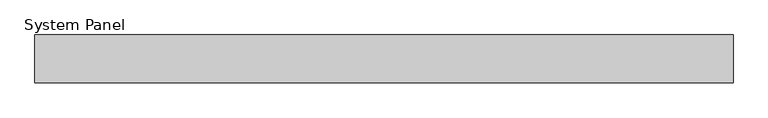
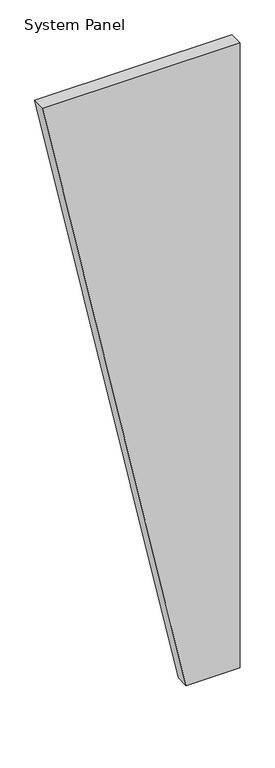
"""IFC4 building model written with IfcOpenShell, lengths in millimetres: plate geometry, System Panel : MetecnoPanel_75mm_Plain_Surfmist."""

import ifcopenshell
import ifcopenshell.guid

model = None  # the IFC model being written
_history = None  # IfcOwnerHistory: only IFC2X3 demands one
_inside = {}  # id of a spatial element -> (the spatial element, [elements in it])
_under = {}  # id of a project, library or spatial element -> (it, [spatial elements below it])
_declared = {}  # id of a project -> (the project, [libraries it declares])
_typed = {}  # id of a type object -> (the type object, [elements of that type])
_made_of = {}  # id of a material, layer set ... -> (it, [elements and type objects made of it])


def new_model(schema):
    """Start an empty IFC model of exactly this schema.

    Asked for "IFC4X3", IfcOpenShell would pick the latest addendum, in which some entities
    have other attributes; the version numbers below select the first issue.
    IFC2X3 requires an IfcOwnerHistory on every rooted entity: one is made here for all.
    """
    global model, _history
    if schema == "IFC4X3":
        model = ifcopenshell.file(schema_version=(4, 3, 0, 0))
    else:
        model = ifcopenshell.file(schema=schema)
    _inside.clear()
    _under.clear()
    _declared.clear()
    _typed.clear()
    _made_of.clear()
    _history = None
    if model.schema == "IFC2X3":
        org = make("IfcOrganization", Name="unknown")
        user = make(
            "IfcPersonAndOrganization",
            ThePerson=make("IfcPerson", FamilyName="unknown"),
            TheOrganization=org,
        )
        app = make(
            "IfcApplication",
            ApplicationDeveloper=org,
            Version="unknown",
            ApplicationFullName="unknown",
            ApplicationIdentifier="unknown",
        )
        _history = make(
            "IfcOwnerHistory",
            OwningUser=user,
            OwningApplication=app,
            ChangeAction="ADDED",
            CreationDate=0,
        )
    return model


def make(cls, **values):
    """One entity of the class cls with the attributes given. An attribute that is None is left unset."""
    return model.create_entity(
        cls, **{name: value for name, value in values.items() if value is not None}
    )


def rooted(cls, **values):
    """An entity with a GlobalId (a new one), such as an element, a storey or a relation."""
    return make(cls, GlobalId=ifcopenshell.guid.new(), OwnerHistory=_history, **values)


def si_unit(unit_type, name, prefix=None):
    """IfcSIUnit, for example si_unit("LENGTHUNIT", "METRE", prefix="MILLI")."""
    return make("IfcSIUnit", UnitType=unit_type, Prefix=prefix, Name=name)


def assignment(units):
    """IfcUnitAssignment: the units of a project."""
    return None if units is None else make("IfcUnitAssignment", Units=units)


def point(xyz):
    """IfcCartesianPoint."""
    return None if xyz is None else make("IfcCartesianPoint", Coordinates=xyz)


def direction(xyz):
    """IfcDirection."""
    return None if xyz is None else make("IfcDirection", DirectionRatios=xyz)


def frame(location, z_axis=None, x_axis=None):
    """IfcAxis2Placement3D, a coordinate frame: its origin and axes. An axis left out is left unset."""
    return make(
        "IfcAxis2Placement3D",
        Location=point(location),
        Axis=direction(z_axis),
        RefDirection=direction(x_axis),
    )


def origin():
    """The frame at (0, 0, 0) with its axes left unset."""
    return frame((0.0, 0.0, 0.0))


def place(relative_to, where):
    """IfcLocalPlacement: puts the frame where relative to a parent placement (None: the world)."""
    return make(
        "IfcLocalPlacement", PlacementRelTo=relative_to, RelativePlacement=where
    )


def context(
    kind, dimensions, precision=None, world=None, true_north=None, identifier=None
):
    """IfcGeometricRepresentationContext, for example the 3D "Model" context."""
    return make(
        "IfcGeometricRepresentationContext",
        ContextIdentifier=identifier,
        ContextType=kind,
        CoordinateSpaceDimension=dimensions,
        Precision=precision,
        WorldCoordinateSystem=world,
        TrueNorth=true_north,
    )


def project(units=None, contexts=None):
    """IfcProject with its units and contexts."""
    return rooted(
        "IfcProject",
        Name="project",
        RepresentationContexts=contexts,
        UnitsInContext=assignment(units),
    )


def spatial(cls, under=None, at=None, **own):
    """A site, building, storey or space (cls), placed at a placement, below another one or the project."""
    s = rooted(cls, ObjectPlacement=at, **own)
    if under is not None:
        _under.setdefault(under.id(), (under, []))[1].append(s)
    return s


def polyline(points):
    """IfcPolyline through the points."""
    return make("IfcPolyline", Points=[point(p) for p in points])


def outline(outer, holes=None, kind="AREA"):
    """IfcArbitraryClosedProfileDef: a profile drawn as a closed curve; with holes, ...WithVoids."""
    if holes is None:
        return make("IfcArbitraryClosedProfileDef", ProfileType=kind, OuterCurve=outer)
    return make(
        "IfcArbitraryProfileDefWithVoids",
        ProfileType=kind,
        OuterCurve=outer,
        InnerCurves=holes,
    )


def extrude(swept, where, along, depth):
    """IfcExtrudedAreaSolid: the profile swept, set in the frame where, extruded along a direction by depth."""
    return make(
        "IfcExtrudedAreaSolid",
        SweptArea=swept,
        Position=where,
        ExtrudedDirection=direction(along),
        Depth=depth,
    )


def shape(context_of_items, identifier, shape_type, items):
    """IfcShapeRepresentation: the items that make up one representation, for example the "Body"."""
    return make(
        "IfcShapeRepresentation",
        ContextOfItems=context_of_items,
        RepresentationIdentifier=identifier,
        RepresentationType=shape_type,
        Items=items,
    )


def source(mapping_origin, context_of_items, identifier, shape_type, items):
    """IfcRepresentationMap: a shape defined once, which mapped items show again and again."""
    return make(
        "IfcRepresentationMap",
        MappingOrigin=mapping_origin,
        MappedRepresentation=shape(context_of_items, identifier, shape_type, items),
    )


def transform(
    local_origin,
    x_axis=None,
    y_axis=None,
    z_axis=None,
    scale=None,
    scale2=None,
    scale3=None,
    uniform=True,
):
    """IfcCartesianTransformationOperator3D, or its non-uniform kind. x_axis, y_axis, z_axis: its Axis1, 2, 3."""
    if uniform:
        return make(
            "IfcCartesianTransformationOperator3D",
            Axis1=direction(x_axis),
            Axis2=direction(y_axis),
            LocalOrigin=point(local_origin),
            Scale=scale,
            Axis3=direction(z_axis),
        )
    return make(
        "IfcCartesianTransformationOperator3DnonUniform",
        Axis1=direction(x_axis),
        Axis2=direction(y_axis),
        LocalOrigin=point(local_origin),
        Scale=scale,
        Axis3=direction(z_axis),
        Scale2=scale2,
        Scale3=scale3,
    )


def mapped(mapping_source, mapping_target):
    """IfcMappedItem: shows the shape of a source again, moved by a transform."""
    return make(
        "IfcMappedItem", MappingSource=mapping_source, MappingTarget=mapping_target
    )


def made_of(thing, what):
    """Note that an element or type object is made of a material, layer set ...; save() writes the relation."""
    if what is not None:
        _made_of.setdefault(what.id(), (what, []))[1].append(thing)
    return thing


def element(
    cls,
    number,
    at=None,
    inside=None,
    cuts=None,
    type_object=None,
    material=None,
    context=None,
    identifier="Body",
    shape_type=None,
    held_by="IfcProductDefinitionShape",
    body=None,
    shapes=None,
    **own,
):
    """One element of the class cls, such as IfcWall. Its Tag is "e" and its number.

    at: its placement. inside: the storey or other place that contains it. cuts: it is an
    opening in that element (IfcRelVoidsElement). A single representation is given by context,
    identifier, shape_type and body (its items); several are given by shapes. held_by: the class
    of the entity that holds the representations. save() writes the other relations.
    """
    e = rooted(cls, Tag="e%d" % number, ObjectPlacement=at, **own)
    if body is not None:
        shapes = [shape(context, identifier, shape_type, body)]
    if shapes is not None:
        e.Representation = make(held_by, Representations=shapes)
    if inside is not None:
        _inside.setdefault(inside.id(), (inside, []))[1].append(e)
    if cuts is not None:
        rooted(
            "IfcRelVoidsElement", RelatingBuildingElement=cuts, RelatedOpeningElement=e
        )
    if type_object is not None:
        _typed.setdefault(type_object.id(), (type_object, []))[1].append(e)
    return made_of(e, material)


def aggregate(whole, parts):
    """IfcRelAggregates: a whole, such as a stair, and the parts it consists of."""
    return rooted("IfcRelAggregates", RelatingObject=whole, RelatedObjects=parts)


def save(model, path):
    """Write the relations noted so far, then the file.

    IfcRelAggregates (storeys below a building ...), IfcRelContainedInSpatialStructure (elements
    in a storey), IfcRelDefinesByType, IfcRelAssociatesMaterial and IfcRelDeclares: one each for
    every whole, place, type object, material and project.
    """
    for whole, parts in _under.values():
        aggregate(whole, parts)
    for where, things in _inside.values():
        rooted(
            "IfcRelContainedInSpatialStructure",
            RelatedElements=things,
            RelatingStructure=where,
        )
    for kind, things in _typed.values():
        rooted("IfcRelDefinesByType", RelatedObjects=things, RelatingType=kind)
    for what, things in _made_of.values():
        rooted("IfcRelAssociatesMaterial", RelatedObjects=things, RelatingMaterial=what)
    for by, libraries in _declared.values():
        rooted("IfcRelDeclares", RelatingContext=by, RelatedDefinitions=libraries)
    model.write(path)


def system_panel_2589ff73(model_context):
    return source(origin(), model_context, "Body", "SweptSolid", [
        extrude(outline(polyline([(0.0, 250.0), (0.0, 550.0), (3679.9704237, 550.0), (3679.9704237, -550.0), (0.0, 250.0)])), frame((0.0, -75.0, 0.0), z_axis=(0.0, 1.0, 0.0), x_axis=(0.0, 0.0, 1.0)), (0.0, 0.0, 1.0), 75.0),
    ])


if __name__ == "__main__":
    model = new_model("IFC4")
    model_context = context("Model", 3, world=origin())
    ifc_project = project(units=[si_unit("LENGTHUNIT", "METRE", prefix="MILLI")], contexts=[model_context])
    site = spatial("IfcSite", under=ifc_project)
    building = spatial("IfcBuilding", under=site)
    placement = place(None, origin())
    system_panel_shape = system_panel_2589ff73(model_context)
    element("IfcPlate", 1, ObjectType="System Panel : MetecnoPanel_75mm_Plain_Surfmist", at=placement, inside=building, context=model_context, shape_type="MappedRepresentation", body=[
        mapped(system_panel_shape, transform((0.0, 0.0, 0.0), x_axis=(1.0, 0.0, 0.0), y_axis=(0.0, 1.0, 0.0), z_axis=(0.0, 0.0, 1.0))),
    ])
    save(model, "model.ifc")
